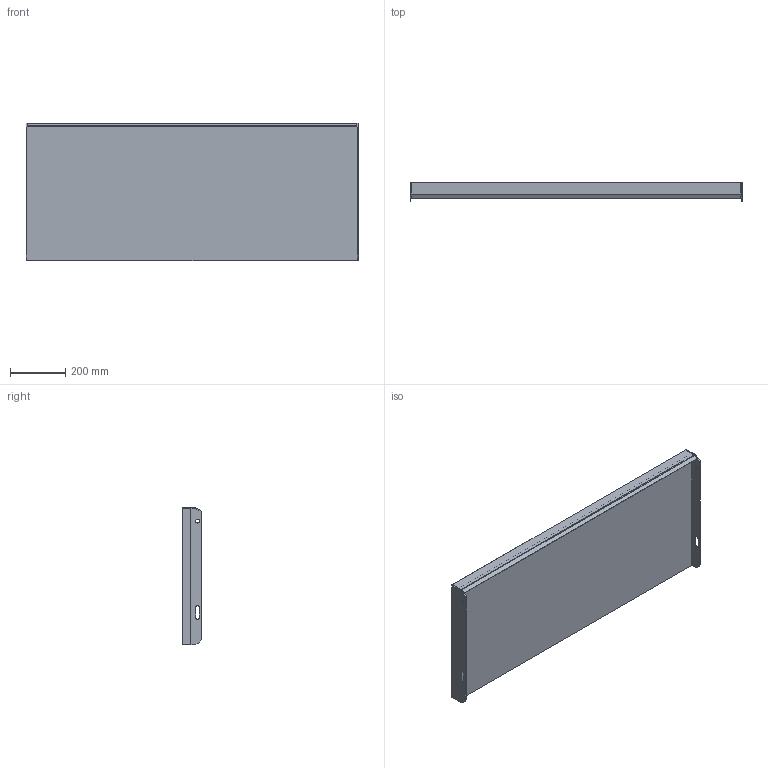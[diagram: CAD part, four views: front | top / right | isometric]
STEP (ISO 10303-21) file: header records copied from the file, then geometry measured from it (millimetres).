
FILE_DESCRIPTION (( 'STEP AP203' ), '1' );
FILE_NAME ('148812051, Plan TH6, 1200x500, vfz.STEP', '2020-10-21T13:15:50', ( '' ), ( '' ), 'SwSTEP 2.0', 'SolidWorks 2019', '' );
FILE_SCHEMA (( 'CONFIG_CONTROL_DESIGN' ));
Length unit declared in the file: millimetre
Products named in the file (4): SW0000041378; SW0000041794; SW0000041753; 148812051, Plan TH6, 1200x500, vfz
Assembly tree (4 placements, depth 2):
  148812051, Plan TH6, 1200x500, vfz
    SW0000041794
    SW0000041378  x2
    SW0000041753
Bounding box: 1200 x 70 x 497 mm (x, y, z)
Volume: 18111664.6 mm3; surface area: 1573949.7 mm2
Topology: 4 solids, 4 shells, 59 faces, 142 edges, 92 vertices
Faces by surface type: plane 45, cylinder 14
Entity records: 1693 total; most frequent: DIRECTION 221, CARTESIAN_POINT 220, ORIENTED_EDGE 206, EDGE_CURVE 103, VECTOR 87, LINE 87, AXIS2_PLACEMENT_3D 67, VERTEX_POINT 66
